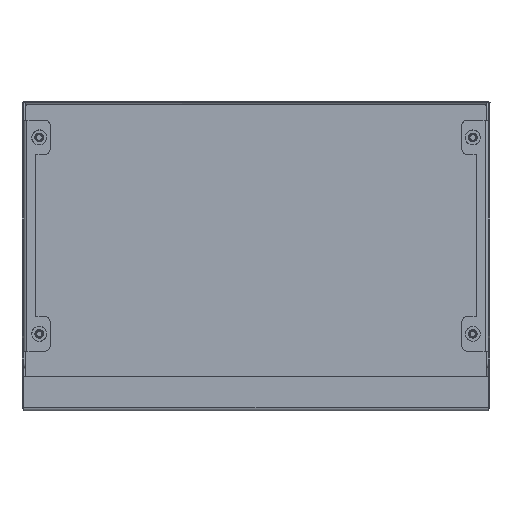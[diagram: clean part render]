
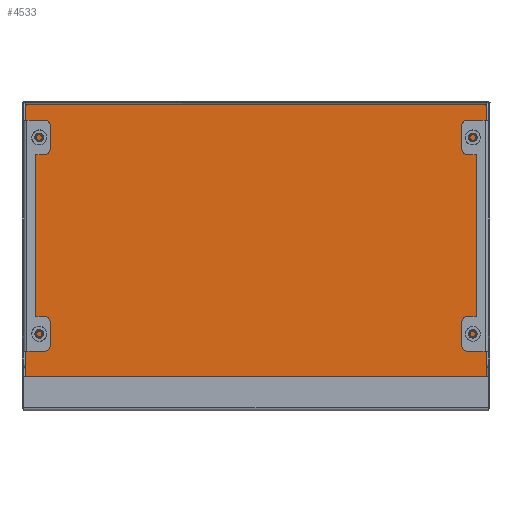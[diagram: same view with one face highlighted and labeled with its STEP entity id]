
A CAD part, front view. The second image highlights one B-rep face of the part: STEP entity #4533.
In plain terms, the highlighted planar face has unit normal (0, -1, 0).
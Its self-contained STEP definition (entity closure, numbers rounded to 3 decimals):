
#127 = ORIENTED_EDGE ( 'NONE', *, *, #4090, .T. ) ;
#140 = CARTESIAN_POINT ( 'NONE',  ( 202.5, -1.4, 118.6 ) ) ;
#173 = CARTESIAN_POINT ( 'NONE',  ( 199.6, -1.4, -118.798 ) ) ;
#192 = VERTEX_POINT ( 'NONE', #5351 ) ;
#280 = CARTESIAN_POINT ( 'NONE',  ( 199.466, -1.4, -119.383 ) ) ;
#373 = CARTESIAN_POINT ( 'NONE',  ( -199.6, -1.4, -118.798 ) ) ;
#408 = EDGE_CURVE ( 'NONE', #6069, #7822, #5834, .T. ) ;
#421 = ORIENTED_EDGE ( 'NONE', *, *, #8101, .T. ) ;
#635 = LINE ( 'NONE', #6568, #2768 ) ;
#706 = DIRECTION ( 'NONE',  ( 0., -1., 0. ) ) ;
#837 = CARTESIAN_POINT ( 'NONE',  ( -199.6, -1.4, -121.799 ) ) ;
#854 = EDGE_CURVE ( 'NONE', #4402, #4495, #7518, .T. ) ;
#878 = VECTOR ( 'NONE', #5989, 1000. ) ;
#912 = EDGE_LOOP ( 'NONE', ( #4729, #127, #2418, #421, #3719, #999, #1734, #4272, #5009, #3808 ) ) ;
#999 = ORIENTED_EDGE ( 'NONE', *, *, #1372, .F. ) ;
#1020 = EDGE_CURVE ( 'NONE', #7822, #5880, #3754, .T. ) ;
#1328 = DIRECTION ( 'NONE',  ( 0.707, 0., -0.707 ) ) ;
#1372 = EDGE_CURVE ( 'NONE', #5880, #5472, #5767, .T. ) ;
#1395 = VERTEX_POINT ( 'NONE', #4569 ) ;
#1426 = EDGE_CURVE ( 'NONE', #4495, #6069, #635, .T. ) ;
#1470 = PLANE ( 'NONE',  #8176 ) ;
#1556 = DIRECTION ( 'NONE',  ( -1., 0., 0. ) ) ;
#1648 = CARTESIAN_POINT ( 'NONE',  ( -199.466, -1.4, 118.466 ) ) ;
#1680 = VECTOR ( 'NONE', #7465, 1000. ) ;
#1734 = ORIENTED_EDGE ( 'NONE', *, *, #1020, .F. ) ;
#1825 = VECTOR ( 'NONE', #4305, 1000. ) ;
#1991 = CARTESIAN_POINT ( 'NONE',  ( -198.881, -1.4, 118.6 ) ) ;
#2055 = CARTESIAN_POINT ( 'NONE',  ( 202.5, -1.4, 121.5 ) ) ;
#2173 = FACE_OUTER_BOUND ( 'NONE', #912, .T. ) ;
#2225 = AXIS2_PLACEMENT_3D ( 'NONE', #280, #4173, #6187 ) ;
#2331 = LINE ( 'NONE', #4865, #1680 ) ;
#2416 = DIRECTION ( 'NONE',  ( 0., 0., 1. ) ) ;
#2418 = ORIENTED_EDGE ( 'NONE', *, *, #7489, .T. ) ;
#2499 = VECTOR ( 'NONE', #1556, 1000. ) ;
#2741 = AXIS2_PLACEMENT_3D ( 'NONE', #1648, #8223, #2416 ) ;
#2768 = VECTOR ( 'NONE', #1328, 1000. ) ;
#3038 = CARTESIAN_POINT ( 'NONE',  ( -39.617, -1.4, 39.617 ) ) ;
#3302 = AXIS2_PLACEMENT_3D ( 'NONE', #6528, #706, #4614 ) ;
#3651 = CARTESIAN_POINT ( 'NONE',  ( 199.533, -1.4, -120.299 ) ) ;
#3719 = ORIENTED_EDGE ( 'NONE', *, *, #4424, .F. ) ;
#3754 = LINE ( 'NONE', #3038, #1825 ) ;
#3808 = ORIENTED_EDGE ( 'NONE', *, *, #854, .F. ) ;
#4033 = DIRECTION ( 'NONE',  ( 0., 0., 1. ) ) ;
#4090 = EDGE_CURVE ( 'NONE', #192, #1395, #4633, .T. ) ;
#4173 = DIRECTION ( 'NONE',  ( 0., -1., 0. ) ) ;
#4202 = DIRECTION ( 'NONE',  ( 0., 0., 1. ) ) ;
#4272 = ORIENTED_EDGE ( 'NONE', *, *, #408, .F. ) ;
#4305 = DIRECTION ( 'NONE',  ( 0.707, 0., 0.707 ) ) ;
#4382 = DIRECTION ( 'NONE',  ( 0., 1., 0. ) ) ;
#4402 = VERTEX_POINT ( 'NONE', #173 ) ;
#4424 = EDGE_CURVE ( 'NONE', #5472, #6904, #6622, .T. ) ;
#4495 = VERTEX_POINT ( 'NONE', #6163 ) ;
#4533 = ADVANCED_FACE ( 'NONE', ( #2173 ), #1470, .F. ) ;
#4569 = CARTESIAN_POINT ( 'NONE',  ( 198.881, -1.4, 118.6 ) ) ;
#4614 = DIRECTION ( 'NONE',  ( 0., 0., -1. ) ) ;
#4633 = CIRCLE ( 'NONE', #6951, 0.6 ) ;
#4729 = ORIENTED_EDGE ( 'NONE', *, *, #4947, .F. ) ;
#4865 = CARTESIAN_POINT ( 'NONE',  ( 199.6, -1.4, 118.6 ) ) ;
#4892 = CARTESIAN_POINT ( 'NONE',  ( 199.466, -1.4, 118.466 ) ) ;
#4947 = EDGE_CURVE ( 'NONE', #192, #4402, #2331, .T. ) ;
#5009 = ORIENTED_EDGE ( 'NONE', *, *, #1426, .F. ) ;
#5351 = CARTESIAN_POINT ( 'NONE',  ( 199.6, -1.4, 117.881 ) ) ;
#5472 = VERTEX_POINT ( 'NONE', #373 ) ;
#5767 = CIRCLE ( 'NONE', #3302, 0.6 ) ;
#5834 = LINE ( 'NONE', #7448, #2499 ) ;
#5850 = VECTOR ( 'NONE', #7311, 1000. ) ;
#5880 = VERTEX_POINT ( 'NONE', #6434 ) ;
#5989 = DIRECTION ( 'NONE',  ( 0., 0., 1. ) ) ;
#6069 = VERTEX_POINT ( 'NONE', #3651 ) ;
#6163 = CARTESIAN_POINT ( 'NONE',  ( 199.042, -1.4, -119.807 ) ) ;
#6187 = DIRECTION ( 'NONE',  ( 0., 0., -1. ) ) ;
#6434 = CARTESIAN_POINT ( 'NONE',  ( -199.042, -1.4, -119.807 ) ) ;
#6528 = CARTESIAN_POINT ( 'NONE',  ( -199.466, -1.4, -119.383 ) ) ;
#6568 = CARTESIAN_POINT ( 'NONE',  ( 39.617, -1.4, 39.617 ) ) ;
#6580 = VERTEX_POINT ( 'NONE', #1991 ) ;
#6622 = LINE ( 'NONE', #837, #878 ) ;
#6904 = VERTEX_POINT ( 'NONE', #7193 ) ;
#6951 = AXIS2_PLACEMENT_3D ( 'NONE', #4892, #4382, #4202 ) ;
#6962 = CIRCLE ( 'NONE', #2741, 0.6 ) ;
#7050 = CARTESIAN_POINT ( 'NONE',  ( -199.533, -1.4, -120.299 ) ) ;
#7193 = CARTESIAN_POINT ( 'NONE',  ( -199.6, -1.4, 117.881 ) ) ;
#7233 = DIRECTION ( 'NONE',  ( 0., 1., 0. ) ) ;
#7311 = DIRECTION ( 'NONE',  ( -1., 0., 0. ) ) ;
#7448 = CARTESIAN_POINT ( 'NONE',  ( 202.5, -1.4, -120.299 ) ) ;
#7465 = DIRECTION ( 'NONE',  ( 0., 0., -1. ) ) ;
#7489 = EDGE_CURVE ( 'NONE', #1395, #6580, #8028, .T. ) ;
#7518 = CIRCLE ( 'NONE', #2225, 0.6 ) ;
#7822 = VERTEX_POINT ( 'NONE', #7050 ) ;
#8028 = LINE ( 'NONE', #140, #5850 ) ;
#8101 = EDGE_CURVE ( 'NONE', #6580, #6904, #6962, .T. ) ;
#8176 = AXIS2_PLACEMENT_3D ( 'NONE', #2055, #7233, #4033 ) ;
#8223 = DIRECTION ( 'NONE',  ( 0., 1., 0. ) ) ;
